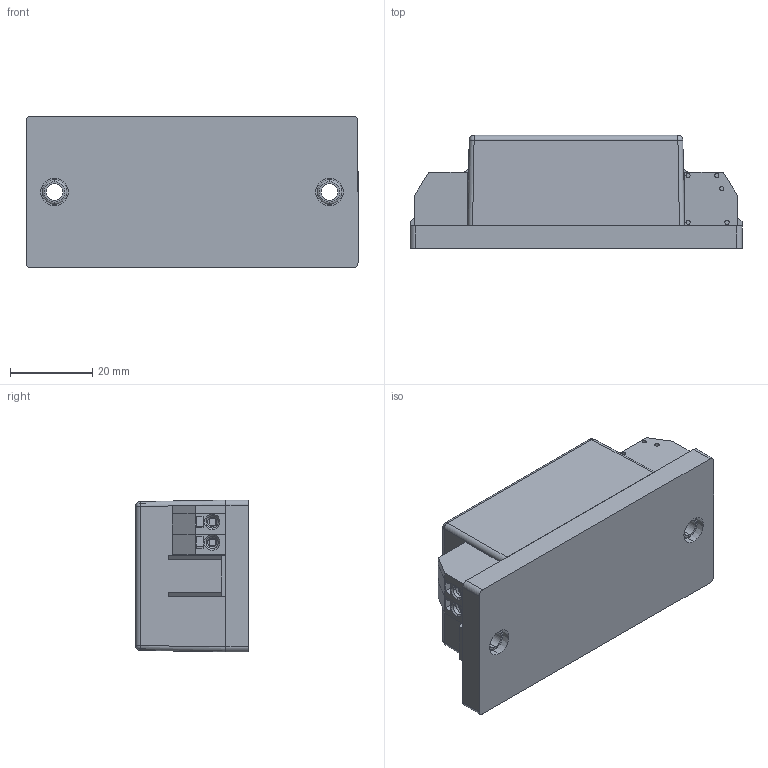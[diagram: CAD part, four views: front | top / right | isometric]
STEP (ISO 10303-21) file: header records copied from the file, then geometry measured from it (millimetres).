
FILE_DESCRIPTION (( 'STEP AP214' ), '1' );
FILE_NAME ('D-NUW.STEP', '2015-08-26T09:35:25', ( '' ), ( '' ), 'SwSTEP 2.0', 'SolidWorks 2015', '' );
FILE_SCHEMA (( 'AUTOMOTIVE_DESIGN' ));
Length unit declared in the file: millimetre
Products named in the file (5): Aufkleber-48x33-NUW; Oberteil; Dummy-NUW; Unterteil; D-NUW
Assembly tree (4 placements, depth 2):
  D-NUW
    Unterteil
    Dummy-NUW
    Oberteil
    Aufkleber-48x33-NUW
Bounding box: 80.9 x 27.68 x 37 mm (x, y, z)
Volume: 17706.4 mm3; surface area: 38894.5 mm2
Topology: 27 solids, 27 shells, 1022 faces, 2631 edges, 1724 vertices
Faces by surface type: plane 656, cylinder 278, cone 76, torus 8, sphere 4
Entity records: 41284 total; most frequent: CARTESIAN_POINT 5644, DIRECTION 5309, ORIENTED_EDGE 5254, EDGE_CURVE 2627, LINE 1835, VECTOR 1835, AXIS2_PLACEMENT_3D 1737, VERTEX_POINT 1724
